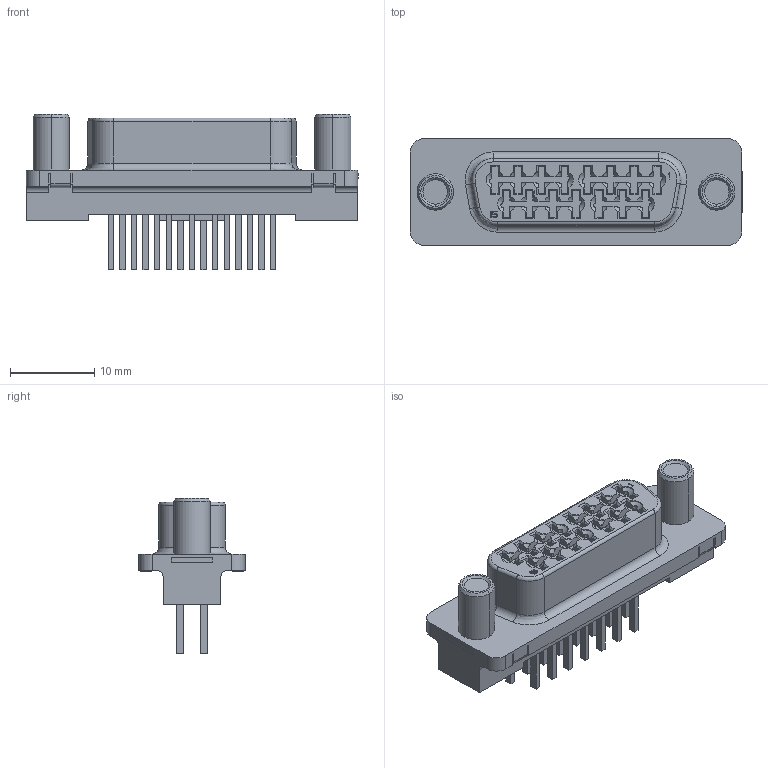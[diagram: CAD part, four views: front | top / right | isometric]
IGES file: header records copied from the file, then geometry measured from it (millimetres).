
Start section:  PTC IGES file: c-747142-2-l-3d.igs
Global section: file name: c-747142-2-l-3d.igs; native system: Creo Parametric by PTC Inc.; preprocessor: 2015200; author: workeradm; organization: Unknown; units: millimetre
Bounding box: 39.29 x 12.6 x 18.41 mm (x, y, z)
Surface area: 2522.1 mm2 (no closed solid volume)
Topology: 0 solids, 0 shells, 656 faces, 3528 edges, 3528 vertices
Faces by surface type: bspline 448, revolution 208
